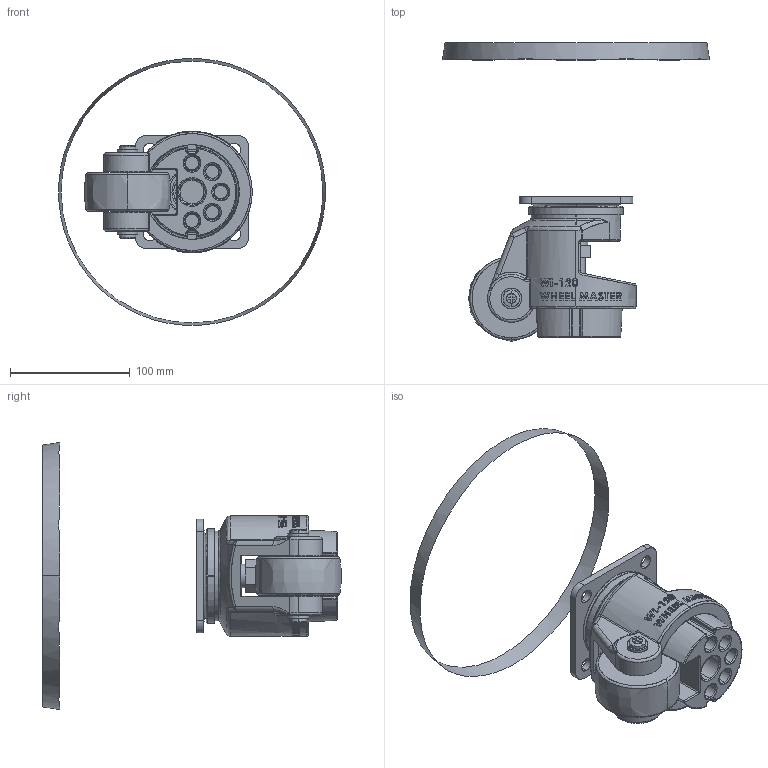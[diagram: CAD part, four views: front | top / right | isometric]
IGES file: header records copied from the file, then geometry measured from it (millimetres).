
Start section: SolidWorks IGES file using analytic representation for surfaces
Global section: file name: 2HH:\辫屈霖累诀\快老墨促肺弊(NEW)\权其捞瘤诀肺靛侩3D\WI120FP.IGS; native system: SolidWorks 2010; preprocessor: SolidWorks 2010; author: Administrator; date: 110129.143730; units: millimetre
Bounding box: 223.14 x 249.43 x 223.14 mm (x, y, z)
Surface area: 144940.2 mm2 (no closed solid volume)
Topology: 0 solids, 0 shells, 990 faces, 11372 edges, 11336 vertices
Faces by surface type: bspline 657, revolution 333
